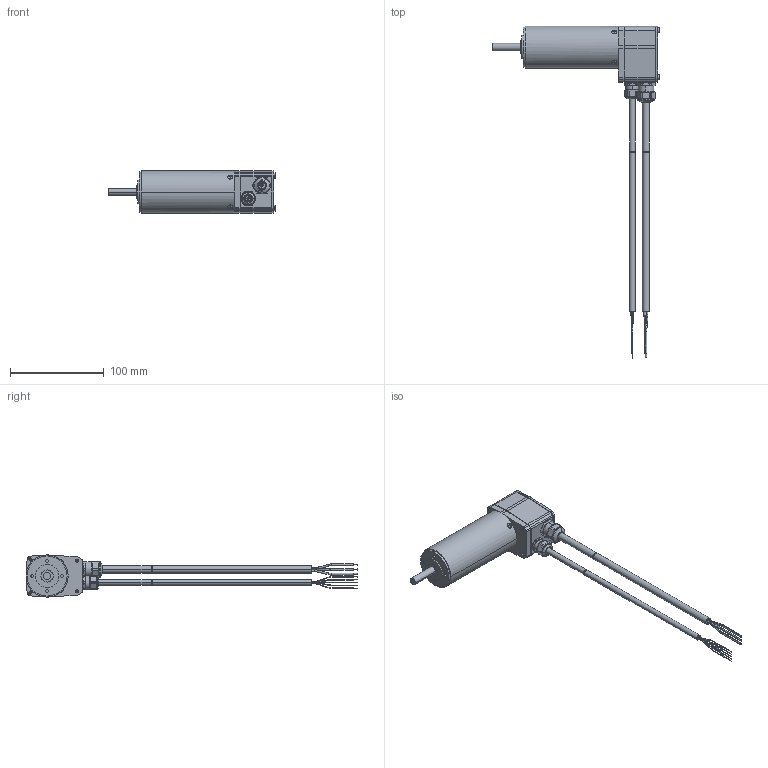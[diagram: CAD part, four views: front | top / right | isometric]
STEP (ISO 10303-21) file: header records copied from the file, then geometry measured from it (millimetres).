
FILE_DESCRIPTION((''),'2;1');
FILE_NAME('136210_EC45_250W','2016-10-17T',('mmagpetk'),(''),'CREO PARAMETRIC BY PTC INC, 2016050','CREO PARAMETRIC BY PTC INC, 2016050','');
FILE_SCHEMA(('CONFIG_CONTROL_DESIGN'));
Products named in the file (1): 136210_EC45_250W
Bounding box: 178.81 x 354.82 x 45 mm (x, y, z)
Volume: 290981.7 mm3; surface area: 48188.2 mm2
Topology: 3 solids, 3 shells, 814 faces, 1974 edges, 1232 vertices
Faces by surface type: cylinder 424, plane 236, bspline 48, torus 46, cone 44, sphere 16
Entity records: 64303 total; most frequent: CARTESIAN_POINT 33745, ORIENTED_EDGE 3948, DIRECTION 3730, PRESENTATION_STYLE_ASSIGNMENT 2579, STYLED_ITEM 1977, CURVE_STYLE 1974, EDGE_CURVE 1974, AXIS2_PLACEMENT_3D 1458
